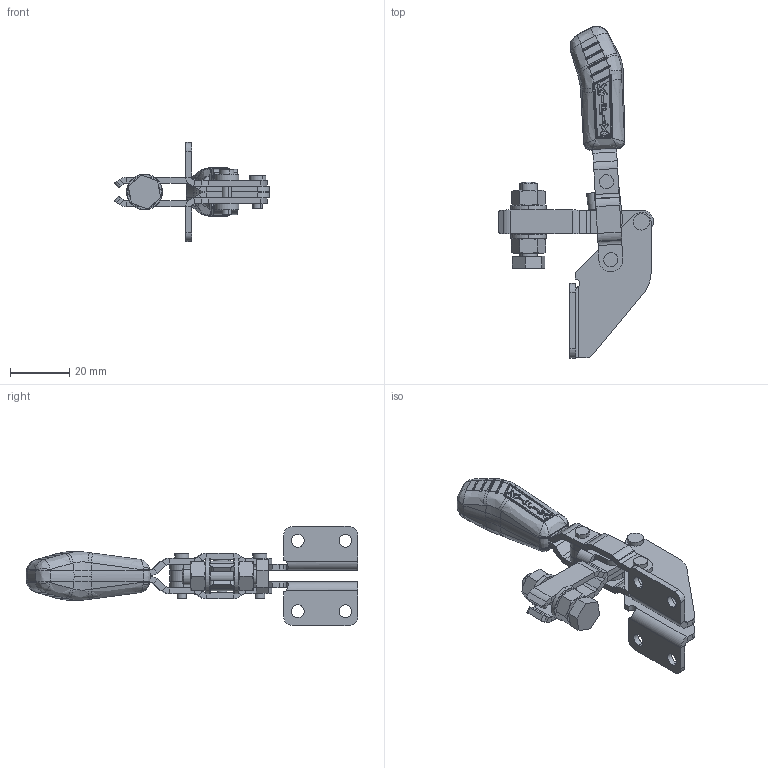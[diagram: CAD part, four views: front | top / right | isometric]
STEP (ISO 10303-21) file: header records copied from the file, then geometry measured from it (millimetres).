
FILE_DESCRIPTION (( 'STEP AP203' ), '1' );
FILE_NAME ('KF-010 F.STEP', '2014-07-28T12:23:09', ( 'Ricardo' ), ( '' ), 'SwSTEP 2.0', 'SolidWorks 2013', '' );
FILE_SCHEMA (( 'CONFIG_CONTROL_DESIGN' ));
Length unit declared in the file: millimetre
Products named in the file (13): 17.50001; 03.13012; 12.50006; 01.10119; 11.50001; 04.10005; 07.60004; 06.50003; KF-010 F; 06.50012; 05.20011; 02.12018_Direita; 02.12018_Esquerda
Assembly tree (18 placements, depth 2):
  KF-010 F
    03.13012  x2
    01.10119  x2
    04.10005
    06.50003  x2
    06.50012  x2
    05.20011
    02.12018_Direita
    02.12018_Esquerda
    17.50001  x2
    12.50006
    11.50001  x2
    07.60004
Bounding box: 52.09 x 111.59 x 33.3 mm (x, y, z)
Volume: 16951.8 mm3; surface area: 17100.7 mm2
Topology: 20 solids, 20 shells, 1139 faces, 2754 edges, 1648 vertices
Faces by surface type: plane 386, cylinder 382, bspline 258, cone 58, sphere 52, torus 3
Entity records: 34708 total; most frequent: CARTESIAN_POINT 12598, ORIENTED_EDGE 4774, DIRECTION 3706, EDGE_CURVE 2387, VERTEX_POINT 1442, AXIS2_PLACEMENT_3D 1421, EDGE_LOOP 1033, FACE_OUTER_BOUND 982
